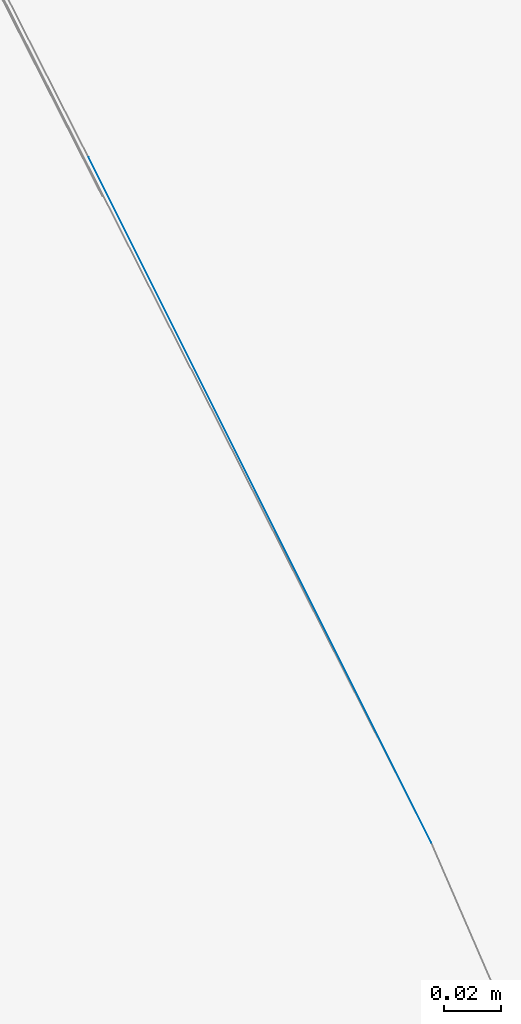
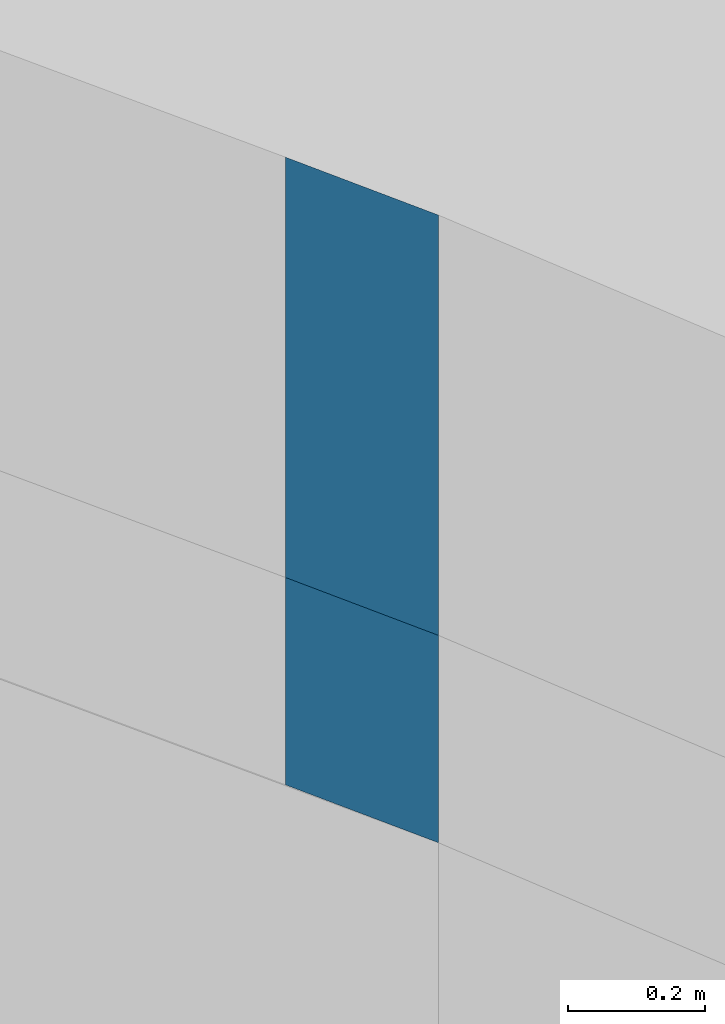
# Not in any storey, part 92 of 136: 3 walls.
"""IFC4 building model written with IfcOpenShell, lengths in metres."""

from ifc_helpers import new_model, entity, si_unit, converted_unit, origin, place, context, subcontext, project, spatial, face_set, surface_model, element, save


model = new_model("IFC4")

# Units and contexts
model_context = context("Model", 3, precision=1e-05, world=origin())
body_context = subcontext(model_context, "Body", "Model", "MODEL_VIEW")
ifc_project = project(units=[converted_unit("PLANEANGLEUNIT", "DEGREE", entity("IfcRatioMeasure", 0.0174532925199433), si_unit("PLANEANGLEUNIT", "RADIAN"), dimensions=[0, 0, 0, 0, 0, 0, 0]), si_unit("AREAUNIT", "SQUARE_METRE"), si_unit("LENGTHUNIT", "METRE")], contexts=[model_context])

# Site, building
site_placement = place(None, origin())
site = spatial("IfcSite", under=ifc_project, at=site_placement, Name="_site")
building_1_placement = place(site_placement, origin())
building_1 = spatial("IfcBuilding", under=site, at=building_1_placement, Name="_building")

# Wall
wall_1_placement = place(building_1_placement, origin())
element("IfcWall", 1, at=wall_1_placement, inside=building_1, Name="Wall", PredefinedType="NOTDEFINED", context=body_context, shape_type="SurfaceModel", body=[
    surface_model("IfcFaceBasedSurfaceModel", [(168.54, -46.04, 48.41), (168.42, -45.8, 48.41), (168.42, -45.8, 49.16), (168.54, -46.04, 49.16)], [face_set([[[0, 1, 2, 3]]])]),
])

# Building
building_2_placement = place(site_placement, origin())
building_2 = spatial("IfcBuilding", under=site, at=building_2_placement, Name="_building")

# Walls
wall_2_placement = place(building_2_placement, origin())
element("IfcWall", 2, at=wall_2_placement, inside=building_2, Name="Wall", PredefinedType="NOTDEFINED", context=body_context, shape_type="SurfaceModel", body=[
    surface_model("IfcFaceBasedSurfaceModel", [(168.54, -46.04, 48.41), (168.42, -45.8, 48.41), (168.42, -45.8, 48.04), (168.54, -46.04, 48.04)], [face_set([[[0, 1, 2, 3]]])]),
])
wall_3_placement = place(building_2_placement, origin())
element("IfcWall", 3, at=wall_3_placement, inside=building_2, Name="Wall", PredefinedType="NOTDEFINED", context=body_context, shape_type="SurfaceModel", body=[
    surface_model("IfcFaceBasedSurfaceModel", [(168.54, -46.04, 48.41), (168.42, -45.8, 48.41), (168.42, -45.8, 49.16), (168.54, -46.04, 49.16)], [face_set([[[0, 1, 2, 3]]])]),
])

save(model, "model.ifc")
